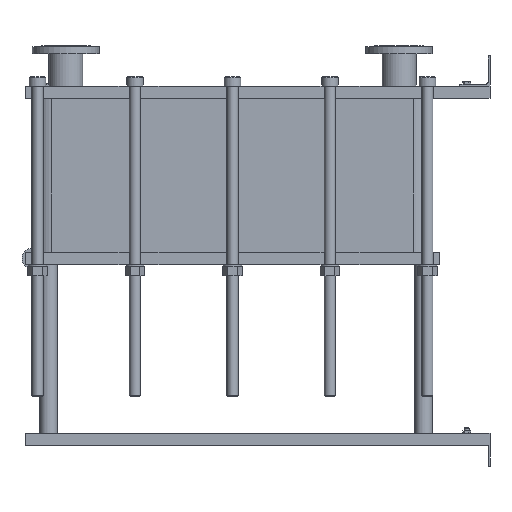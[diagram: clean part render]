
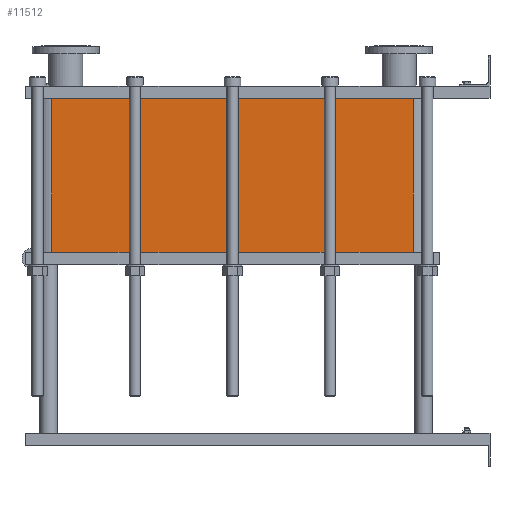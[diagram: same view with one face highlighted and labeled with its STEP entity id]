
A CAD part, left-side view. The second image highlights one B-rep face of the part: STEP entity #11512.
In plain terms, the highlighted planar face has unit normal (-1, 0, 0).
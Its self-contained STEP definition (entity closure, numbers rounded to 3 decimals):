
#1129=LINE('',#23232,#2102);
#1130=LINE('',#23236,#2103);
#1131=LINE('',#23238,#2104);
#1132=LINE('',#23239,#2105);
#2102=VECTOR('',#15887,10.);
#2103=VECTOR('',#15892,10.);
#2104=VECTOR('',#15893,10.);
#2105=VECTOR('',#15894,10.);
#3267=FACE_OUTER_BOUND('',#4093,.T.);
#4093=EDGE_LOOP('',(#10103,#10104,#10105,#10106));
#5642=VERTEX_POINT('',#23229);
#5643=VERTEX_POINT('',#23231);
#5644=VERTEX_POINT('',#23235);
#5645=VERTEX_POINT('',#23237);
#7159=EDGE_CURVE('',#5643,#5642,#1129,.T.);
#7161=EDGE_CURVE('',#5642,#5644,#1130,.T.);
#7162=EDGE_CURVE('',#5645,#5644,#1131,.T.);
#7163=EDGE_CURVE('',#5645,#5643,#1132,.T.);
#10103=ORIENTED_EDGE('',*,*,#7161,.T.);
#10104=ORIENTED_EDGE('',*,*,#7162,.F.);
#10105=ORIENTED_EDGE('',*,*,#7163,.T.);
#10106=ORIENTED_EDGE('',*,*,#7159,.T.);
#10857=PLANE('',#12751);
#11512=ADVANCED_FACE('',(#3267),#10857,.T.);
#12751=AXIS2_PLACEMENT_3D('',#23234,#15890,#15891);
#15887=DIRECTION('',(0.,0.,-1.));
#15890=DIRECTION('center_axis',(-1.,0.,0.));
#15891=DIRECTION('ref_axis',(0.,1.,0.));
#15892=DIRECTION('',(0.,-1.,0.));
#15893=DIRECTION('',(0.,0.,-1.));
#15894=DIRECTION('',(0.,1.,0.));
#23229=CARTESIAN_POINT('',(-200.,1414.,-496.8));
#23231=CARTESIAN_POINT('',(-200.,1414.,0.));
#23232=CARTESIAN_POINT('',(-200.,1414.,0.));
#23234=CARTESIAN_POINT('Origin',(-200.,248.,0.));
#23235=CARTESIAN_POINT('',(-200.,248.,-496.8));
#23236=CARTESIAN_POINT('',(-200.,539.5,-496.8));
#23237=CARTESIAN_POINT('',(-200.,248.,0.));
#23238=CARTESIAN_POINT('',(-200.,248.,0.));
#23239=CARTESIAN_POINT('',(-200.,248.,0.));
